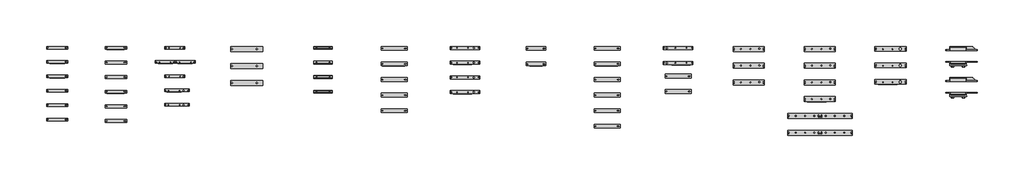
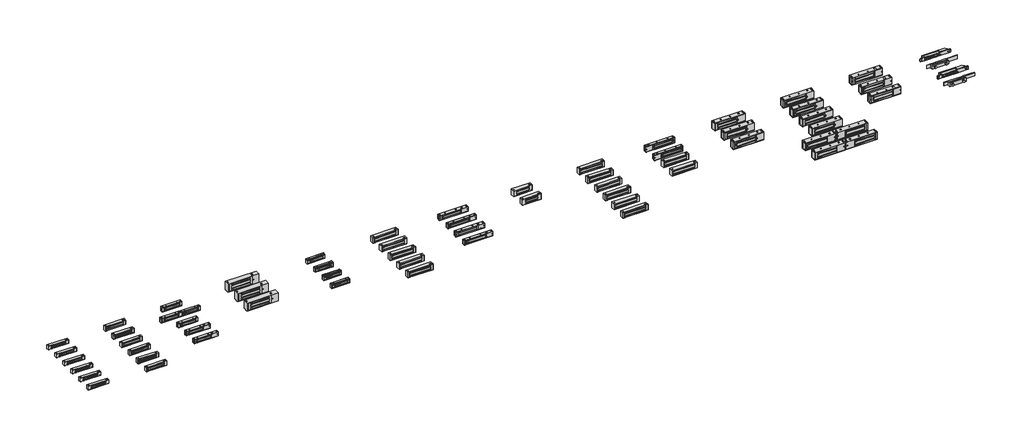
# One storey: 61 proxies.
"""IFC4 building model written with IfcOpenShell, lengths in millimetres."""

from ifc_helpers import new_model, si_unit, origin, place, context, project, spatial, transform, mapped, element, save
from components import generic_models_15ee71e2, generic_models_b2fa7a8a, generic_models_ae7c055c, generic_models_5bd64e26, generic_models_ab2dd63a, generic_models_49ed49ea, generic_models_3db6b747, generic_models_bdc86e0f, generic_models_4a27e445, generic_models_45d1e053, generic_models_b2814690, generic_models_6eb1532a, generic_models_a4071390, generic_models_6a58f8de, generic_models_a7cd2422, generic_models_7b6c8938, generic_models_967bc4de

model = new_model("IFC4")

# Units and contexts
model_context = context("Model", 3, world=origin())
ifc_project = project(units=[si_unit("LENGTHUNIT", "METRE", prefix="MILLI")], contexts=[model_context])

# Site, building, storey
site = spatial("IfcSite", under=ifc_project)
building = spatial("IfcBuilding", under=site)
storey = spatial("IfcBuildingStorey", under=building, Name="Уровень 1", Elevation=337.3558458)

# Proxies
placement = place(None, origin())
generic_models_shape = generic_models_15ee71e2(model_context)
element("IfcBuildingElementProxy", 1, Name="Электромагнитный_замок_ML-395_AccordTec_R19 : Электромагнитный_замок_ML-395_AccordTec_R19", ObjectType="Электромагнитный_замок_ML-395_AccordTec_R19 : Электромагнитный_замок_ML-395_AccordTec_R19", at=placement, inside=storey, context=model_context, shape_type="MappedRepresentation", body=[
    mapped(generic_models_shape, transform((-7337.1772036, 11760.0878102, 337.3558458), x_axis=(1.0, 0.0, 0.0), y_axis=(0.0, 1.0, 0.0), z_axis=(0.0, 0.0, 1.0))),
])
generic_models_2_shape = generic_models_b2fa7a8a(model_context)
element("IfcBuildingElementProxy", 2, Name="Электромагнитный_замок_ML-180A-2_AccordTec_R19 : Электромагнитный_замок_ML-180A-2_AccordTec_R19", ObjectType="Электромагнитный_замок_ML-180A-2_AccordTec_R19 : Электромагнитный_замок_ML-180A-2_AccordTec_R19", at=placement, inside=storey, context=model_context, shape_type="MappedRepresentation", body=[
    mapped(generic_models_2_shape, transform((-12822.1772036, 11660.0878102, 337.3558458), x_axis=(1.0, 0.0, 0.0), y_axis=(0.0, 1.0, 0.0), z_axis=(0.0, 0.0, 1.0))),
])
generic_models_3_shape = generic_models_ae7c055c(model_context)
element("IfcBuildingElementProxy", 3, Name="Электромагнитный_замок_ML-350AL_AccordTec_R19 : Электромагнитный_замок_ML-350AL_AccordTec_R19", ObjectType="Электромагнитный_замок_ML-350AL_AccordTec_R19 : Электромагнитный_замок_ML-350AL_AccordTec_R19", at=placement, inside=storey, context=model_context, shape_type="MappedRepresentation", body=[
    mapped(generic_models_3_shape, transform((-8527.1772036, 11775.0878102, 337.3558458), x_axis=(1.0, 0.0, 0.0), y_axis=(0.0, 1.0, 0.0), z_axis=(0.0, 0.0, 1.0))),
])
generic_models_4_shape = generic_models_5bd64e26(model_context)
element("IfcBuildingElementProxy", 4, Name="Электромагнитный_замок_ML-500А_AccordTec_R19 : Электромагнитный_замок_ML-500А_AccordTec_R19", ObjectType="Электромагнитный_замок_ML-500А_AccordTec_R19 : Электромагнитный_замок_ML-500А_AccordTec_R19", at=placement, inside=storey, context=model_context, shape_type="MappedRepresentation", body=[
    mapped(generic_models_4_shape, transform((-6737.1772036, 11762.0878102, 337.3558458), x_axis=(1.0, 0.0, 0.0), y_axis=(0.0, 1.0, 0.0), z_axis=(0.0, 0.0, 1.0))),
])
generic_models_5_shape = generic_models_ab2dd63a(model_context)
element("IfcBuildingElementProxy", 5, Name="Электромагнитный_замок_ML-100K_с_планкой_AccordTec_R19 : Электромагнитный_замок_ML-100K_с_планкой_AccordTec_R19", ObjectType="Электромагнитный_замок_ML-100K_с_планкой_AccordTec_R19 : Электромагнитный_замок_ML-100K_с_планкой_AccordTec_R19", at=placement, inside=storey, context=model_context, shape_type="MappedRepresentation", body=[
    mapped(generic_models_5_shape, transform((-13739.6772036, 11780.0878102, 337.3558458), x_axis=(1.0, 0.0, 0.0), y_axis=(0.0, 1.0, 0.0), z_axis=(0.0, 0.0, 1.0))),
])
element("IfcBuildingElementProxy", 6, Name="Электромагнитный_замок_ML-100K_с_планкой_белый_AccordTec_R19 : Электромагнитный_замок_ML-100K_с_планкой_белый_AccordTec_R19", ObjectType="Электромагнитный_замок_ML-100K_с_планкой_белый_AccordTec_R19 : Электромагнитный_замок_ML-100K_с_планкой_белый_AccordTec_R19", at=placement, inside=storey, context=model_context, shape_type="MappedRepresentation", body=[
    mapped(generic_models_5_shape, transform((-13739.6772036, 11659.0878102, 337.3558458), x_axis=(1.0, 0.0, 0.0), y_axis=(0.0, 1.0, 0.0), z_axis=(0.0, 0.0, 1.0))),
])
element("IfcBuildingElementProxy", 7, Name="Электромагнитный_замок_ML-100K_с_уголком_AccordTec_R19 : Электромагнитный_замок_ML-100K_с_уголком_AccordTec_R19", ObjectType="Электромагнитный_замок_ML-100K_с_уголком_AccordTec_R19 : Электромагнитный_замок_ML-100K_с_уголком_AccordTec_R19", at=placement, inside=storey, context=model_context, shape_type="MappedRepresentation", body=[
    mapped(generic_models_5_shape, transform((-13739.6772036, 11537.0878102, 337.3558458), x_axis=(1.0, 0.0, 0.0), y_axis=(0.0, 1.0, 0.0), z_axis=(0.0, 0.0, 1.0))),
])
element("IfcBuildingElementProxy", 8, Name="Электромагнитный_замок_ML-100K_с_уголком_белый_AccordTec_R19 : Электромагнитный_замок_ML-100K_с_уголком_белый_AccordTec_R19", ObjectType="Электромагнитный_замок_ML-100K_с_уголком_белый_AccordTec_R19 : Электромагнитный_замок_ML-100K_с_уголком_белый_AccordTec_R19", at=placement, inside=storey, context=model_context, shape_type="MappedRepresentation", body=[
    mapped(generic_models_5_shape, transform((-13739.6772036, 11415.0878102, 337.3558458), x_axis=(1.0, 0.0, 0.0), y_axis=(0.0, 1.0, 0.0), z_axis=(0.0, 0.0, 1.0))),
])
element("IfcBuildingElementProxy", 9, Name="Электромагнитный_замок_ML-100KB_с_планкой_AccordTec_R19 : Электромагнитный_замок_ML-100KB_с_планкой_AccordTec_R19", ObjectType="Электромагнитный_замок_ML-100KB_с_планкой_AccordTec_R19 : Электромагнитный_замок_ML-100KB_с_планкой_AccordTec_R19", at=placement, inside=storey, context=model_context, shape_type="MappedRepresentation", body=[
    mapped(generic_models_5_shape, transform((-13739.6772036, 11293.0878102, 337.3558458), x_axis=(1.0, 0.0, 0.0), y_axis=(0.0, 1.0, 0.0), z_axis=(0.0, 0.0, 1.0))),
])
element("IfcBuildingElementProxy", 10, Name="Электромагнитный_замок_ML-100KB_с_уголком_AccordTec_R19 : Электромагнитный_замок_ML-100KB_с_уголком_AccordTec_R19", ObjectType="Электромагнитный_замок_ML-100KB_с_уголком_AccordTec_R19 : Электромагнитный_замок_ML-100KB_с_уголком_AccordTec_R19", at=placement, inside=storey, context=model_context, shape_type="MappedRepresentation", body=[
    mapped(generic_models_5_shape, transform((-13739.6772036, 11171.0878102, 337.3558458), x_axis=(1.0, 0.0, 0.0), y_axis=(0.0, 1.0, 0.0), z_axis=(0.0, 0.0, 1.0))),
])
generic_models_6_shape = generic_models_49ed49ea(model_context)
element("IfcBuildingElementProxy", 11, Name="Электромагнитный_замок_ML-180K_с_планкой_AccordTec_R19 : Электромагнитный_замок_ML-180K_с_планкой_AccordTec_R19", ObjectType="Электромагнитный_замок_ML-180K_с_планкой_AccordTec_R19 : Электромагнитный_замок_ML-180K_с_планкой_AccordTec_R19", at=placement, inside=storey, context=model_context, shape_type="MappedRepresentation", body=[
    mapped(generic_models_6_shape, transform((-13242.1772036, 11778.0878102, 337.3558458), x_axis=(1.0, 0.0, 0.0), y_axis=(0.0, 1.0, 0.0), z_axis=(0.0, 0.0, 1.0))),
])
element("IfcBuildingElementProxy", 12, Name="Электромагнитный_замок_ML-180K_с_планкой_белый_AccordTec_R19 : Электромагнитный_замок_ML-180K_с_планкой_белый_AccordTec_R19", ObjectType="Электромагнитный_замок_ML-180K_с_планкой_белый_AccordTec_R19 : Электромагнитный_замок_ML-180K_с_планкой_белый_AccordTec_R19", at=placement, inside=storey, context=model_context, shape_type="MappedRepresentation", body=[
    mapped(generic_models_6_shape, transform((-13242.1772036, 11654.0878102, 337.3558458), x_axis=(1.0, 0.0, 0.0), y_axis=(0.0, 1.0, 0.0), z_axis=(0.0, 0.0, 1.0))),
])
element("IfcBuildingElementProxy", 13, Name="Электромагнитный_замок_ML-180K_с_уголком_AccordTec_R19 : Электромагнитный_замок_ML-180K_с_уголком_AccordTec_R19", ObjectType="Электромагнитный_замок_ML-180K_с_уголком_AccordTec_R19 : Электромагнитный_замок_ML-180K_с_уголком_AccordTec_R19", at=placement, inside=storey, context=model_context, shape_type="MappedRepresentation", body=[
    mapped(generic_models_6_shape, transform((-13242.1772036, 11530.0632132, 337.3558458), x_axis=(1.0, 0.0, 0.0), y_axis=(0.0, 1.0, 0.0), z_axis=(0.0, 0.0, 1.0))),
])
element("IfcBuildingElementProxy", 14, Name="Электромагнитный_замок_ML-180K_с_уголком_белый_AccordTec_R19 : Электромагнитный_замок_ML-180K_с_уголком_белый_AccordTec_R19", ObjectType="Электромагнитный_замок_ML-180K_с_уголком_белый_AccordTec_R19 : Электромагнитный_замок_ML-180K_с_уголком_белый_AccordTec_R19", at=placement, inside=storey, context=model_context, shape_type="MappedRepresentation", body=[
    mapped(generic_models_6_shape, transform((-13242.1772036, 11406.0632132, 337.3558458), x_axis=(1.0, 0.0, 0.0), y_axis=(0.0, 1.0, 0.0), z_axis=(0.0, 0.0, 1.0))),
])
element("IfcBuildingElementProxy", 15, Name="Электромагнитный_замок_ML-180KB_с_планкой_AccordTec_R19 : Электромагнитный_замок_ML-180KB_с_планкой_AccordTec_R19", ObjectType="Электромагнитный_замок_ML-180KB_с_планкой_AccordTec_R19 : Электромагнитный_замок_ML-180KB_с_планкой_AccordTec_R19", at=placement, inside=storey, context=model_context, shape_type="MappedRepresentation", body=[
    mapped(generic_models_6_shape, transform((-13242.1772036, 11282.0632132, 337.3558458), x_axis=(1.0, 0.0, 0.0), y_axis=(0.0, 1.0, 0.0), z_axis=(0.0, 0.0, 1.0))),
])
element("IfcBuildingElementProxy", 16, Name="Электромагнитный_замок_ML-180KB_с_уголком_AccordTec_R19 : Электромагнитный_замок_ML-180KB_с_уголком_AccordTec_R19", ObjectType="Электромагнитный_замок_ML-180KB_с_уголком_AccordTec_R19 : Электромагнитный_замок_ML-180KB_с_уголком_AccordTec_R19", at=placement, inside=storey, context=model_context, shape_type="MappedRepresentation", body=[
    mapped(generic_models_6_shape, transform((-13242.1772036, 11158.0632132, 337.3558458), x_axis=(1.0, 0.0, 0.0), y_axis=(0.0, 1.0, 0.0), z_axis=(0.0, 0.0, 1.0))),
])
generic_models_7_shape = generic_models_3db6b747(model_context)
element("IfcBuildingElementProxy", 17, Name="Электромагнитный_замок_ML-180A_с_планкой_AccordTec_R19 : Электромагнитный_замок_ML-180A_с_планкой_AccordTec_R19", ObjectType="Электромагнитный_замок_ML-180A_с_планкой_AccordTec_R19 : Электромагнитный_замок_ML-180A_с_планкой_AccordTec_R19", at=placement, inside=storey, context=model_context, shape_type="MappedRepresentation", body=[
    mapped(generic_models_7_shape, transform((-12742.1772036, 11781.0878102, 337.3558458), x_axis=(1.0, 0.0, 0.0), y_axis=(0.0, 1.0, 0.0), z_axis=(0.0, 0.0, 1.0))),
])
element("IfcBuildingElementProxy", 18, Name="Электромагнитный_замок_ML-180AN_AccordTec_R19 : Электромагнитный_замок_ML-180AN_AccordTec_R19", ObjectType="Электромагнитный_замок_ML-180AN_AccordTec_R19 : Электромагнитный_замок_ML-180AN_AccordTec_R19", at=placement, inside=storey, context=model_context, shape_type="MappedRepresentation", body=[
    mapped(generic_models_7_shape, transform((-12742.1772036, 11539.0878102, 337.3558458), x_axis=(1.0, 0.0, 0.0), y_axis=(0.0, 1.0, 0.0), z_axis=(0.0, 0.0, 1.0))),
])
generic_models_8_shape = generic_models_bdc86e0f(model_context)
element("IfcBuildingElementProxy", 19, Name="Электромагнитный_замок_ML-180AS_с_герконом_AccordTec_R19 : Электромагнитный_замок_ML-180AS_с_герконом_AccordTec_R19", ObjectType="Электромагнитный_замок_ML-180AS_с_герконом_AccordTec_R19 : Электромагнитный_замок_ML-180AS_с_герконом_AccordTec_R19", at=placement, inside=storey, context=model_context, shape_type="MappedRepresentation", body=[
    mapped(generic_models_8_shape, transform((-12742.1772036, 11418.0878102, 337.3558458), x_axis=(1.0, 0.0, 0.0), y_axis=(0.0, 1.0, 0.0), z_axis=(0.0, 0.0, 1.0))),
])
element("IfcBuildingElementProxy", 20, Name="Электромагнитный_замок_ML-180ASN_с_герконом_AccordTec_R19 : Электромагнитный_замок_ML-180ASN_с_герконом_AccordTec_R19", ObjectType="Электромагнитный_замок_ML-180ASN_с_герконом_AccordTec_R19 : Электромагнитный_замок_ML-180ASN_с_герконом_AccordTec_R19", at=placement, inside=storey, context=model_context, shape_type="MappedRepresentation", body=[
    mapped(generic_models_8_shape, transform((-12742.1772036, 11297.0878102, 337.3558458), x_axis=(1.0, 0.0, 0.0), y_axis=(0.0, 1.0, 0.0), z_axis=(0.0, 0.0, 1.0))),
])
generic_models_9_shape = generic_models_4a27e445(model_context)
element("IfcBuildingElementProxy", 21, Name="Электромагнитный_замок_ML-194K_без_электроники_с_уголком_AccordTec_R19 : Электромагнитный_замок_ML-194K_без_электроники_с_уголком_AccordTec_R19", ObjectType="Электромагнитный_замок_ML-194K_без_электроники_с_уголком_AccordTec_R19 : Электромагнитный_замок_ML-194K_без_электроники_с_уголком_AccordTec_R19", at=placement, inside=storey, context=model_context, shape_type="MappedRepresentation", body=[
    mapped(generic_models_9_shape, transform((-12182.1772036, 11758.0878102, 337.3558458), x_axis=(1.0, 0.0, 0.0), y_axis=(0.0, 1.0, 0.0), z_axis=(0.0, 0.0, 1.0))),
])
element("IfcBuildingElementProxy", 22, Name="Электромагнитный_замок_ML-194K_управление_микропроцессором_с_уголком_Brown_AccordTec_R19 : Электромагнитный_замок_ML-194K_управление_микропроцессором_с_уголком_Brown_AccordTec_R19", ObjectType="Электромагнитный_замок_ML-194K_управление_микропроцессором_с_уголком_Brown_AccordTec_R19 : Электромагнитный_замок_ML-194K_управление_микропроцессором_с_уголком_Brown_AccordTec_R19", at=placement, inside=storey, context=model_context, shape_type="MappedRepresentation", body=[
    mapped(generic_models_9_shape, transform((-12182.1772036, 11614.0878102, 337.3558458), x_axis=(1.0, 0.0, 0.0), y_axis=(0.0, 1.0, 0.0), z_axis=(0.0, 0.0, 1.0))),
])
element("IfcBuildingElementProxy", 23, Name="Электромагнитный_замок_ML-194K-2_без_электроники_с_уголком_AccordTec_R19 : Электромагнитный_замок_ML-194K-2_без_электроники_с_уголком_AccordTec_R19", ObjectType="Электромагнитный_замок_ML-194K-2_без_электроники_с_уголком_AccordTec_R19 : Электромагнитный_замок_ML-194K-2_без_электроники_с_уголком_AccordTec_R19", at=placement, inside=storey, context=model_context, shape_type="MappedRepresentation", body=[
    mapped(generic_models_9_shape, transform((-12182.1772036, 11470.0878102, 337.3558458), x_axis=(1.0, 0.0, 0.0), y_axis=(0.0, 1.0, 0.0), z_axis=(0.0, 0.0, 1.0))),
])
generic_models_10_shape = generic_models_45d1e053(model_context)
element("IfcBuildingElementProxy", 24, Name="Электромагнитный_замок_ML-200K_Premium_Black_с_планкой_AccordTec_R19 : Электромагнитный_замок_ML-200K_Premium_Black_с_планкой_AccordTec_R19", ObjectType="Электромагнитный_замок_ML-200K_Premium_Black_с_планкой_AccordTec_R19 : Электромагнитный_замок_ML-200K_Premium_Black_с_планкой_AccordTec_R19", at=placement, inside=storey, context=model_context, shape_type="MappedRepresentation", body=[
    mapped(generic_models_10_shape, transform((-11479.7076621, 11778.0878102, 337.3558458), x_axis=(1.0, 0.0, 0.0), y_axis=(0.0, 1.0, 0.0), z_axis=(0.0, 0.0, 1.0))),
])
element("IfcBuildingElementProxy", 25, Name="Электромагнитный_замок_ML-200K_Premium_Black_с_уголком_AccordTec_R19 : Электромагнитный_замок_ML-200K_Premium_Black_с_уголком_AccordTec_R19", ObjectType="Электромагнитный_замок_ML-200K_Premium_Black_с_уголком_AccordTec_R19 : Электромагнитный_замок_ML-200K_Premium_Black_с_уголком_AccordTec_R19", at=placement, inside=storey, context=model_context, shape_type="MappedRepresentation", body=[
    mapped(generic_models_10_shape, transform((-11479.7076621, 11654.0878102, 337.3558458), x_axis=(1.0, 0.0, 0.0), y_axis=(0.0, 1.0, 0.0), z_axis=(0.0, 0.0, 1.0))),
])
element("IfcBuildingElementProxy", 26, Name="Электромагнитный_замок_ML-200K_Premium_Grey_с_планкой_AccordTec_R19 : Электромагнитный_замок_ML-200K_Premium_Grey_с_планкой_AccordTec_R19", ObjectType="Электромагнитный_замок_ML-200K_Premium_Grey_с_планкой_AccordTec_R19 : Электромагнитный_замок_ML-200K_Premium_Grey_с_планкой_AccordTec_R19", at=placement, inside=storey, context=model_context, shape_type="MappedRepresentation", body=[
    mapped(generic_models_10_shape, transform((-11479.7076621, 11530.0878102, 337.3558458), x_axis=(1.0, 0.0, 0.0), y_axis=(0.0, 1.0, 0.0), z_axis=(0.0, 0.0, 1.0))),
])
element("IfcBuildingElementProxy", 27, Name="Электромагнитный_замок_ML-200K_Premium_Grey_с_уголком_AccordTec_R19 : Электромагнитный_замок_ML-200K_Premium_Grey_с_уголком_AccordTec_R19", ObjectType="Электромагнитный_замок_ML-200K_Premium_Grey_с_уголком_AccordTec_R19 : Электромагнитный_замок_ML-200K_Premium_Grey_с_уголком_AccordTec_R19", at=placement, inside=storey, context=model_context, shape_type="MappedRepresentation", body=[
    mapped(generic_models_10_shape, transform((-11479.7076621, 11406.0878102, 337.3558458), x_axis=(1.0, 0.0, 0.0), y_axis=(0.0, 1.0, 0.0), z_axis=(0.0, 0.0, 1.0))),
])
generic_models_11_shape = generic_models_b2814690(model_context)
element("IfcBuildingElementProxy", 28, Name="Электромагнитный_замок_ML-295K_с_уголком_AccordTec_R19 : Электромагнитный_замок_ML-295K_с_уголком_AccordTec_R19", ObjectType="Электромагнитный_замок_ML-295K_с_уголком_AccordTec_R19 : Электромагнитный_замок_ML-295K_с_уголком_AccordTec_R19", at=placement, inside=storey, context=model_context, shape_type="MappedRepresentation", body=[
    mapped(generic_models_11_shape, transform((-10911.7123719, 11770.0878102, 337.3558458), x_axis=(1.0, 0.0, 0.0), y_axis=(0.0, 1.0, 0.0), z_axis=(0.0, 0.0, 1.0))),
])
element("IfcBuildingElementProxy", 29, Name="Электромагнитный_замок_ML-295K_с_уголком_белый_AccordTec_R19 : Электромагнитный_замок_ML-295K_с_уголком_белый_AccordTec_R19", ObjectType="Электромагнитный_замок_ML-295K_с_уголком_белый_AccordTec_R19 : Электромагнитный_замок_ML-295K_с_уголком_белый_AccordTec_R19", at=placement, inside=storey, context=model_context, shape_type="MappedRepresentation", body=[
    mapped(generic_models_11_shape, transform((-10911.7123719, 11638.0878102, 337.3558458), x_axis=(1.0, 0.0, 0.0), y_axis=(0.0, 1.0, 0.0), z_axis=(0.0, 0.0, 1.0))),
])
element("IfcBuildingElementProxy", 30, Name="Электромагнитный_замок_ML-295K-2_с_уголком_AccordTec_R19 : Электромагнитный_замок_ML-295K-2_с_уголком_AccordTec_R19", ObjectType="Электромагнитный_замок_ML-295K-2_с_уголком_AccordTec_R19 : Электромагнитный_замок_ML-295K-2_с_уголком_AccordTec_R19", at=placement, inside=storey, context=model_context, shape_type="MappedRepresentation", body=[
    mapped(generic_models_11_shape, transform((-10911.7123719, 11506.0878102, 337.3558458), x_axis=(1.0, 0.0, 0.0), y_axis=(0.0, 1.0, 0.0), z_axis=(0.0, 0.0, 1.0))),
])
element("IfcBuildingElementProxy", 31, Name="Электромагнитный_замок_ML-295KB_с_уголком_AccordTec_R19 : Электромагнитный_замок_ML-295KB_с_уголком_AccordTec_R19", ObjectType="Электромагнитный_замок_ML-295KB_с_уголком_AccordTec_R19 : Электромагнитный_замок_ML-295KB_с_уголком_AccordTec_R19", at=placement, inside=storey, context=model_context, shape_type="MappedRepresentation", body=[
    mapped(generic_models_11_shape, transform((-10911.7123719, 11374.0878102, 337.3558458), x_axis=(1.0, 0.0, 0.0), y_axis=(0.0, 1.0, 0.0), z_axis=(0.0, 0.0, 1.0))),
])
element("IfcBuildingElementProxy", 32, Name="Электромагнитный_замок_ML-295KB-2_с_уголком_AccordTec_R19 : Электромагнитный_замок_ML-295KB-2_с_уголком_AccordTec_R19", ObjectType="Электромагнитный_замок_ML-295KB-2_с_уголком_AccordTec_R19 : Электромагнитный_замок_ML-295KB-2_с_уголком_AccordTec_R19", at=placement, inside=storey, context=model_context, shape_type="MappedRepresentation", body=[
    mapped(generic_models_11_shape, transform((-10911.7123719, 11242.0878102, 337.3558458), x_axis=(1.0, 0.0, 0.0), y_axis=(0.0, 1.0, 0.0), z_axis=(0.0, 0.0, 1.0))),
])
generic_models_12_shape = generic_models_6eb1532a(model_context)
element("IfcBuildingElementProxy", 33, Name="Электромагнитный_замок_ML-295А_AccordTec_R19 : Электромагнитный_замок_ML-295А_AccordTec_R19", ObjectType="Электромагнитный_замок_ML-295А_AccordTec_R19 : Электромагнитный_замок_ML-295А_AccordTec_R19", at=placement, inside=storey, context=model_context, shape_type="MappedRepresentation", body=[
    mapped(generic_models_12_shape, transform((-10327.1772036, 11777.0878102, 337.3558458), x_axis=(1.0, 0.0, 0.0), y_axis=(0.0, 1.0, 0.0), z_axis=(0.0, 0.0, 1.0))),
])
element("IfcBuildingElementProxy", 34, Name="Электромагнитный_замок_ML-295АL_с_герконом_AccordTec_R19 : Электромагнитный_замок_ML-295АL_с_герконом_AccordTec_R19", ObjectType="Электромагнитный_замок_ML-295АL_с_герконом_AccordTec_R19 : Электромагнитный_замок_ML-295АL_с_герконом_AccordTec_R19", at=placement, inside=storey, context=model_context, shape_type="MappedRepresentation", body=[
    mapped(generic_models_12_shape, transform((-10327.1772036, 11652.0878102, 337.3558458), x_axis=(1.0, 0.0, 0.0), y_axis=(0.0, 1.0, 0.0), z_axis=(0.0, 0.0, 1.0))),
])
element("IfcBuildingElementProxy", 35, Name="Электромагнитный_замок_ML-295АLN_с_герконом_AccordTec_R19 : Электромагнитный_замок_ML-295АLN_с_герконом_AccordTec_R19", ObjectType="Электромагнитный_замок_ML-295АLN_с_герконом_AccordTec_R19 : Электромагнитный_замок_ML-295АLN_с_герконом_AccordTec_R19", at=placement, inside=storey, context=model_context, shape_type="MappedRepresentation", body=[
    mapped(generic_models_12_shape, transform((-10327.1772036, 11527.0878102, 337.3558458), x_axis=(1.0, 0.0, 0.0), y_axis=(0.0, 1.0, 0.0), z_axis=(0.0, 0.0, 1.0))),
])
element("IfcBuildingElementProxy", 36, Name="Электромагнитный_замок_ML-295АN_AccordTec_R19 : Электромагнитный_замок_ML-295АN_AccordTec_R19", ObjectType="Электромагнитный_замок_ML-295АN_AccordTec_R19 : Электромагнитный_замок_ML-295АN_AccordTec_R19", at=placement, inside=storey, context=model_context, shape_type="MappedRepresentation", body=[
    mapped(generic_models_12_shape, transform((-10327.1772036, 11402.0878102, 337.3558458), x_axis=(1.0, 0.0, 0.0), y_axis=(0.0, 1.0, 0.0), z_axis=(0.0, 0.0, 1.0))),
])
generic_models_13_shape = generic_models_a4071390(model_context)
element("IfcBuildingElementProxy", 37, Name="Электромагнитный_замок_ML-300K_с_уголком_AccordTec_R19 : Электромагнитный_замок_ML-300K_с_уголком_AccordTec_R19", ObjectType="Электромагнитный_замок_ML-300K_с_уголком_AccordTec_R19 : Электромагнитный_замок_ML-300K_с_уголком_AccordTec_R19", at=placement, inside=storey, context=model_context, shape_type="MappedRepresentation", body=[
    mapped(generic_models_13_shape, transform((-9684.7615044, 11770.0878102, 337.3558458), x_axis=(1.0, 0.0, 0.0), y_axis=(0.0, 1.0, 0.0), z_axis=(0.0, 0.0, 1.0))),
])
element("IfcBuildingElementProxy", 38, Name="Электромагнитный_замок_ML-300KB_с_уголком_AccordTec_R19 : Электромагнитный_замок_ML-300KB_с_уголком_AccordTec_R19", ObjectType="Электромагнитный_замок_ML-300KB_с_уголком_AccordTec_R19 : Электромагнитный_замок_ML-300KB_с_уголком_AccordTec_R19", at=placement, inside=storey, context=model_context, shape_type="MappedRepresentation", body=[
    mapped(generic_models_13_shape, transform((-9684.7615044, 11638.0878102, 337.3558458), x_axis=(1.0, 0.0, 0.0), y_axis=(0.0, 1.0, 0.0), z_axis=(0.0, 0.0, 1.0))),
])
element("IfcBuildingElementProxy", 39, Name="Электромагнитный_замок_ML-350N_K-2_с_уголком_коричневый_AccordTec_R19 : Электромагнитный_замок_ML-350N_K-2_с_уголком_коричневый_AccordTec_R19", ObjectType="Электромагнитный_замок_ML-350N_K-2_с_уголком_коричневый_AccordTec_R19 : Электромагнитный_замок_ML-350N_K-2_с_уголком_коричневый_AccordTec_R19", at=placement, inside=storey, context=model_context, shape_type="MappedRepresentation", body=[
    mapped(generic_models_11_shape, transform((-9112.1772036, 11770.0878102, 337.3558458), x_axis=(1.0, 0.0, 0.0), y_axis=(0.0, 1.0, 0.0), z_axis=(0.0, 0.0, 1.0))),
])
element("IfcBuildingElementProxy", 40, Name="Электромагнитный_замок_ML-350N_K-2_с_уголком_коричневый_AccordTec_R19 : Электромагнитный_замок_ML-350N_K-2_с_уголком_коричневый_AccordTec_R19", ObjectType="Электромагнитный_замок_ML-350N_K-2_с_уголком_коричневый_AccordTec_R19 : Электромагнитный_замок_ML-350N_K-2_с_уголком_коричневый_AccordTec_R19", at=placement, inside=storey, context=model_context, shape_type="MappedRepresentation", body=[
    mapped(generic_models_11_shape, transform((-8512.1772036, 11535.0878102, 337.3558458), x_axis=(1.0, 0.0, 0.0), y_axis=(0.0, 1.0, 0.0), z_axis=(0.0, 0.0, 1.0))),
])
element("IfcBuildingElementProxy", 41, Name="Электромагнитный_замок_ML-350N_K-2_с_уголком_коричневый_AccordTec_R19 : Электромагнитный_замок_ML-350N_K-2_с_уголком_коричневый_AccordTec_R19", ObjectType="Электромагнитный_замок_ML-350N_K-2_с_уголком_коричневый_AccordTec_R19 : Электромагнитный_замок_ML-350N_K-2_с_уголком_коричневый_AccordTec_R19", at=placement, inside=storey, context=model_context, shape_type="MappedRepresentation", body=[
    mapped(generic_models_11_shape, transform((-8512.1772036, 11405.0878102, 337.3558458), x_axis=(1.0, 0.0, 0.0), y_axis=(0.0, 1.0, 0.0), z_axis=(0.0, 0.0, 1.0))),
])
element("IfcBuildingElementProxy", 42, Name="Электромагнитный_замок_ML-350N_K-2_с_уголком_серый_AccordTec_R19 : Электромагнитный_замок_ML-350N_K-2_с_уголком_серый_AccordTec_R19", ObjectType="Электромагнитный_замок_ML-350N_K-2_с_уголком_серый_AccordTec_R19 : Электромагнитный_замок_ML-350N_K-2_с_уголком_серый_AccordTec_R19", at=placement, inside=storey, context=model_context, shape_type="MappedRepresentation", body=[
    mapped(generic_models_11_shape, transform((-9112.1772036, 11638.0878102, 337.3558458), x_axis=(1.0, 0.0, 0.0), y_axis=(0.0, 1.0, 0.0), z_axis=(0.0, 0.0, 1.0))),
])
element("IfcBuildingElementProxy", 43, Name="Электромагнитный_замок_ML-350N_с_уголком_исп_M_коричневый_AccordTec_R19 : Электромагнитный_замок_ML-350N_с_уголком_исп_M_коричневый_AccordTec_R19", ObjectType="Электромагнитный_замок_ML-350N_с_уголком_исп_M_коричневый_AccordTec_R19 : Электромагнитный_замок_ML-350N_с_уголком_исп_M_коричневый_AccordTec_R19", at=placement, inside=storey, context=model_context, shape_type="MappedRepresentation", body=[
    mapped(generic_models_11_shape, transform((-9112.1772036, 11506.0878102, 337.3558458), x_axis=(1.0, 0.0, 0.0), y_axis=(0.0, 1.0, 0.0), z_axis=(0.0, 0.0, 1.0))),
])
element("IfcBuildingElementProxy", 44, Name="Электромагнитный_замок_ML-350N_с_уголком_исп_M_серый_AccordTec_R19 : Электромагнитный_замок_ML-350N_с_уголком_исп_M_серый_AccordTec_R19", ObjectType="Электромагнитный_замок_ML-350N_с_уголком_исп_M_серый_AccordTec_R19 : Электромагнитный_замок_ML-350N_с_уголком_исп_M_серый_AccordTec_R19", at=placement, inside=storey, context=model_context, shape_type="MappedRepresentation", body=[
    mapped(generic_models_11_shape, transform((-9112.1772036, 11374.0878102, 337.3558458), x_axis=(1.0, 0.0, 0.0), y_axis=(0.0, 1.0, 0.0), z_axis=(0.0, 0.0, 1.0))),
])
element("IfcBuildingElementProxy", 45, Name="Электромагнитный_замок_ML-350N_с_уголком_коричневый_AccordTec_R19 : Электромагнитный_замок_ML-350N_с_уголком_коричневый_AccordTec_R19", ObjectType="Электромагнитный_замок_ML-350N_с_уголком_коричневый_AccordTec_R19 : Электромагнитный_замок_ML-350N_с_уголком_коричневый_AccordTec_R19", at=placement, inside=storey, context=model_context, shape_type="MappedRepresentation", body=[
    mapped(generic_models_11_shape, transform((-9112.1772036, 11242.0878102, 337.3558458), x_axis=(1.0, 0.0, 0.0), y_axis=(0.0, 1.0, 0.0), z_axis=(0.0, 0.0, 1.0))),
])
element("IfcBuildingElementProxy", 46, Name="Электромагнитный_замок_ML-350N_с_уголком_серый_AccordTec_R19 : Электромагнитный_замок_ML-350N_с_уголком_серый_AccordTec_R19", ObjectType="Электромагнитный_замок_ML-350N_с_уголком_серый_AccordTec_R19 : Электромагнитный_замок_ML-350N_с_уголком_серый_AccordTec_R19", at=placement, inside=storey, context=model_context, shape_type="MappedRepresentation", body=[
    mapped(generic_models_11_shape, transform((-9112.1772036, 11110.0878102, 337.3558458), x_axis=(1.0, 0.0, 0.0), y_axis=(0.0, 1.0, 0.0), z_axis=(0.0, 0.0, 1.0))),
])
element("IfcBuildingElementProxy", 47, Name="Электромагнитный_замок_ML-350ALN_AccordTec_R19 : Электромагнитный_замок_ML-350ALN_AccordTec_R19", ObjectType="Электромагнитный_замок_ML-350ALN_AccordTec_R19 : Электромагнитный_замок_ML-350ALN_AccordTec_R19", at=placement, inside=storey, context=model_context, shape_type="MappedRepresentation", body=[
    mapped(generic_models_3_shape, transform((-8527.1772036, 11648.0878102, 337.3558458), x_axis=(1.0, 0.0, 0.0), y_axis=(0.0, 1.0, 0.0), z_axis=(0.0, 0.0, 1.0))),
])
element("IfcBuildingElementProxy", 48, Name="Электромагнитный_замок_ML-395KB_AccordTec_R19 : Электромагнитный_замок_ML-395KB_AccordTec_R19", ObjectType="Электромагнитный_замок_ML-395KB_AccordTec_R19 : Электромагнитный_замок_ML-395KB_AccordTec_R19", at=placement, inside=storey, context=model_context, shape_type="MappedRepresentation", body=[
    mapped(generic_models_shape, transform((-7937.1772036, 11760.0878102, 337.3558458), x_axis=(1.0, 0.0, 0.0), y_axis=(0.0, 1.0, 0.0), z_axis=(0.0, 0.0, 1.0))),
])
element("IfcBuildingElementProxy", 49, Name="Электромагнитный_замок_ML-395KB_без_электроники_коричневый_AccordTec_R19 : Электромагнитный_замок_ML-395KB_без_электроники_коричневый_AccordTec_R19", ObjectType="Электромагнитный_замок_ML-395KB_без_электроники_коричневый_AccordTec_R19 : Электромагнитный_замок_ML-395KB_без_электроники_коричневый_AccordTec_R19", at=placement, inside=storey, context=model_context, shape_type="MappedRepresentation", body=[
    mapped(generic_models_shape, transform((-7937.1772036, 11618.0878102, 337.3558458), x_axis=(1.0, 0.0, 0.0), y_axis=(0.0, 1.0, 0.0), z_axis=(0.0, 0.0, 1.0))),
])
element("IfcBuildingElementProxy", 50, Name="Электромагнитный_замок_ML-395KB-2_без электроники_AccordTec_R19 : Электромагнитный_замок_ML-395KB-2_без электроники_AccordTec_R19", ObjectType="Электромагнитный_замок_ML-395KB-2_без электроники_AccordTec_R19 : Электромагнитный_замок_ML-395KB-2_без электроники_AccordTec_R19", at=placement, inside=storey, context=model_context, shape_type="MappedRepresentation", body=[
    mapped(generic_models_shape, transform((-7937.1772036, 11476.0878102, 337.3558458), x_axis=(1.0, 0.0, 0.0), y_axis=(0.0, 1.0, 0.0), z_axis=(0.0, 0.0, 1.0))),
])
element("IfcBuildingElementProxy", 51, Name="Электромагнитный_замок_ML-395_без_электроники_AccordTec_R19 : Электромагнитный_замок_ML-395_без_электроники_AccordTec_R19", ObjectType="Электромагнитный_замок_ML-395_без_электроники_AccordTec_R19 : Электромагнитный_замок_ML-395_без_электроники_AccordTec_R19", at=placement, inside=storey, context=model_context, shape_type="MappedRepresentation", body=[
    mapped(generic_models_shape, transform((-7337.1772036, 11618.0878102, 337.3558458), x_axis=(1.0, 0.0, 0.0), y_axis=(0.0, 1.0, 0.0), z_axis=(0.0, 0.0, 1.0))),
])
element("IfcBuildingElementProxy", 52, Name="Электромагнитный_замок_ML-395-2_с_датчиком_Холла_серый_AccordTec_R19 : Электромагнитный_замок_ML-395-2_с_датчиком_Холла_серый_AccordTec_R19", ObjectType="Электромагнитный_замок_ML-395-2_с_датчиком_Холла_серый_AccordTec_R19 : Электромагнитный_замок_ML-395-2_с_датчиком_Холла_серый_AccordTec_R19", at=placement, inside=storey, context=model_context, shape_type="MappedRepresentation", body=[
    mapped(generic_models_shape, transform((-7337.1772036, 11476.1087518, 337.3558458), x_axis=(1.0, 0.0, 0.0), y_axis=(0.0, 1.0, 0.0), z_axis=(0.0, 0.0, 1.0))),
])
element("IfcBuildingElementProxy", 53, Name="Электромагнитный_замок_ML-395.03_AccordTec_R19 : Электромагнитный_замок_ML-395.03_AccordTec_R19", ObjectType="Электромагнитный_замок_ML-395.03_AccordTec_R19 : Электромагнитный_замок_ML-395.03_AccordTec_R19", at=placement, inside=storey, context=model_context, shape_type="MappedRepresentation", body=[
    mapped(generic_models_shape, transform((-7337.1772036, 11334.1087518, 337.3558458), x_axis=(1.0, 0.0, 0.0), y_axis=(0.0, 1.0, 0.0), z_axis=(0.0, 0.0, 1.0))),
])
generic_models_14_shape = generic_models_6a58f8de(model_context)
element("IfcBuildingElementProxy", 54, Name="Электромагнитный_замок_ML-395_Double_с_планкой_AccordTec_R19 : Электромагнитный_замок_ML-395_Double_с_планкой_AccordTec_R19", ObjectType="Электромагнитный_замок_ML-395_Double_с_планкой_AccordTec_R19 : Электромагнитный_замок_ML-395_Double_с_планкой_AccordTec_R19", at=placement, inside=storey, context=model_context, shape_type="MappedRepresentation", body=[
    mapped(generic_models_14_shape, transform((-7474.6772036, 11192.1087518, 337.3558458), x_axis=(1.0, 0.0, 0.0), y_axis=(0.0, 1.0, 0.0), z_axis=(0.0, 0.0, 1.0))),
])
element("IfcBuildingElementProxy", 55, Name="Электромагнитный_замок_ML-395_Double_с_уголком_AccordTec_R19 : Электромагнитный_замок_ML-395_Double_с_уголком_AccordTec_R19", ObjectType="Электромагнитный_замок_ML-395_Double_с_уголком_AccordTec_R19 : Электромагнитный_замок_ML-395_Double_с_уголком_AccordTec_R19", at=placement, inside=storey, context=model_context, shape_type="MappedRepresentation", body=[
    mapped(generic_models_14_shape, transform((-7474.6772036, 11050.1087518, 337.3558458), x_axis=(1.0, 0.0, 0.0), y_axis=(0.0, 1.0, 0.0), z_axis=(0.0, 0.0, 1.0))),
])
element("IfcBuildingElementProxy", 56, Name="Электромагнитный_замок_ML-500АL_с_герконом_AccordTec_R19 : Электромагнитный_замок_ML-500АL_с_герконом_AccordTec_R19", ObjectType="Электромагнитный_замок_ML-500АL_с_герконом_AccordTec_R19 : Электромагнитный_замок_ML-500АL_с_герконом_AccordTec_R19", at=placement, inside=storey, context=model_context, shape_type="MappedRepresentation", body=[
    mapped(generic_models_4_shape, transform((-6737.1772036, 11622.0878102, 337.3558458), x_axis=(1.0, 0.0, 0.0), y_axis=(0.0, 1.0, 0.0), z_axis=(0.0, 0.0, 1.0))),
])
element("IfcBuildingElementProxy", 57, Name="Электромагнитный_замок_ML-500АN_AccordTec_R19 : Электромагнитный_замок_ML-500АN_AccordTec_R19", ObjectType="Электромагнитный_замок_ML-500АN_AccordTec_R19 : Электромагнитный_замок_ML-500АN_AccordTec_R19", at=placement, inside=storey, context=model_context, shape_type="MappedRepresentation", body=[
    mapped(generic_models_4_shape, transform((-6737.1772036, 11482.0878102, 337.3558458), x_axis=(1.0, 0.0, 0.0), y_axis=(0.0, 1.0, 0.0), z_axis=(0.0, 0.0, 1.0))),
])
generic_models_15_shape = generic_models_a7cd2422(model_context)
element("IfcBuildingElementProxy", 58, Name="Электромагнитный_замок_ML-1200N2(1)_AccordTec_R19 : Электромагнитный_замок_ML-1200N2(1)_AccordTec_R19", ObjectType="Электромагнитный_замок_ML-1200N2(1)_AccordTec_R19 : Электромагнитный_замок_ML-1200N2(1)_AccordTec_R19", at=placement, inside=storey, context=model_context, shape_type="MappedRepresentation", body=[
    mapped(generic_models_15_shape, transform((-6137.1772036, 11768.0878102, 337.3558458), x_axis=(1.0, 0.0, 0.0), y_axis=(0.0, 1.0, 0.0), z_axis=(0.0, 0.0, 1.0))),
])
generic_models_16_shape = generic_models_7b6c8938(model_context)
element("IfcBuildingElementProxy", 59, Name="Электромагнитный_замок_ML-1200N2(1)_с_герконом_AccordTec_R19 : Электромагнитный_замок_ML-1200N2(1)_с_герконом_AccordTec_R19", ObjectType="Электромагнитный_замок_ML-1200N2(1)_с_герконом_AccordTec_R19 : Электромагнитный_замок_ML-1200N2(1)_с_герконом_AccordTec_R19", at=placement, inside=storey, context=model_context, shape_type="MappedRepresentation", body=[
    mapped(generic_models_16_shape, transform((-6137.1772036, 11506.0878102, 337.3558458), x_axis=(1.0, 0.0, 0.0), y_axis=(0.0, 1.0, 0.0), z_axis=(0.0, 0.0, 1.0))),
])
generic_models_17_shape = generic_models_967bc4de(model_context)
element("IfcBuildingElementProxy", 60, Name="Электромагнитный_замок_ML-1200N2(2)_AccordTec_R19 : Электромагнитный_замок_ML-1200N2(2)_AccordTec_R19", ObjectType="Электромагнитный_замок_ML-1200N2(2)_AccordTec_R19 : Электромагнитный_замок_ML-1200N2(2)_AccordTec_R19", at=placement, inside=storey, context=model_context, shape_type="MappedRepresentation", body=[
    mapped(generic_models_17_shape, transform((-6133.0691851, 11581.9767156, 337.3558458), x_axis=(1.0, 0.0, 0.0), y_axis=(0.0, 1.0, 0.0), z_axis=(0.0, 0.0, 1.0))),
])
element("IfcBuildingElementProxy", 61, Name="Электромагнитный_замок_ML-1200N2(2)_с_герконом_AccordTec_R19 : Электромагнитный_замок_ML-1200N2(2)_с_герконом_AccordTec_R19", ObjectType="Электромагнитный_замок_ML-1200N2(2)_с_герконом_AccordTec_R19 : Электромагнитный_замок_ML-1200N2(2)_с_герконом_AccordTec_R19", at=placement, inside=storey, context=model_context, shape_type="MappedRepresentation", body=[
    mapped(generic_models_17_shape, transform((-6133.0691851, 11319.9767156, 337.3558458), x_axis=(1.0, 0.0, 0.0), y_axis=(0.0, 1.0, 0.0), z_axis=(0.0, 0.0, 1.0))),
])

save(model, "model.ifc")
